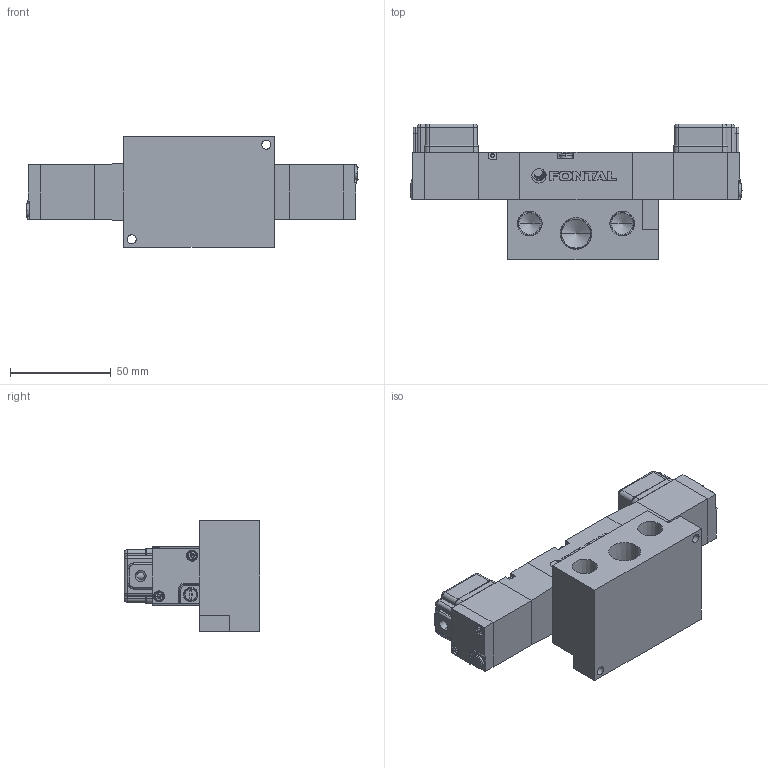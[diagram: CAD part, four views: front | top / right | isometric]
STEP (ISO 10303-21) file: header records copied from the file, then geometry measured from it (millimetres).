
FILE_DESCRIPTION (( 'STEP AP203' ), '1' );
FILE_NAME ('PCD2408#-03-#G#.STEP', '2016-02-04T06:00:11', ( 'Sam Lin' ), ( '' ), 'SwSTEP 2.0', 'SolidWorks 2013', '' );
FILE_SCHEMA (( 'CONFIG_CONTROL_DESIGN' ));
Length unit declared in the file: metre
Products named in the file (12): PCS2406-8; PCS2406-9; PC6-M3; PC08-MARK; PC08-1; PC08-4; PC08-2; PCS2406-3-小圓珠; PCS2406-7; PCD2408#-03-#G#; PCS2406-3; PC6-M4
Assembly tree (23 placements, depth 2):
  PCD2408#-03-#G#
    PC08-1
    PC08-2
    PCS2406-7  x2
    PCS2406-3  x2
    PC6-M4  x4
    PCS2406-8  x2
    PCS2406-9  x2
    PC6-M3  x4
    PC08-MARK
    PC08-4  x2
    PCS2406-3-小圓珠  x2
Bounding box: 165 x 67.5 x 55 mm (x, y, z)
Volume: 236065.7 mm3; surface area: 55913.2 mm2
Topology: 29 solids, 29 shells, 676 faces, 1645 edges, 1015 vertices
Faces by surface type: plane 352, cylinder 136, cone 94, bspline 86, torus 8
Entity records: 12492 total; most frequent: CARTESIAN_POINT 2806, DIRECTION 1681, ORIENTED_EDGE 1666, EDGE_CURVE 833, AXIS2_PLACEMENT_3D 590, VERTEX_POINT 535, LINE 501, VECTOR 501
